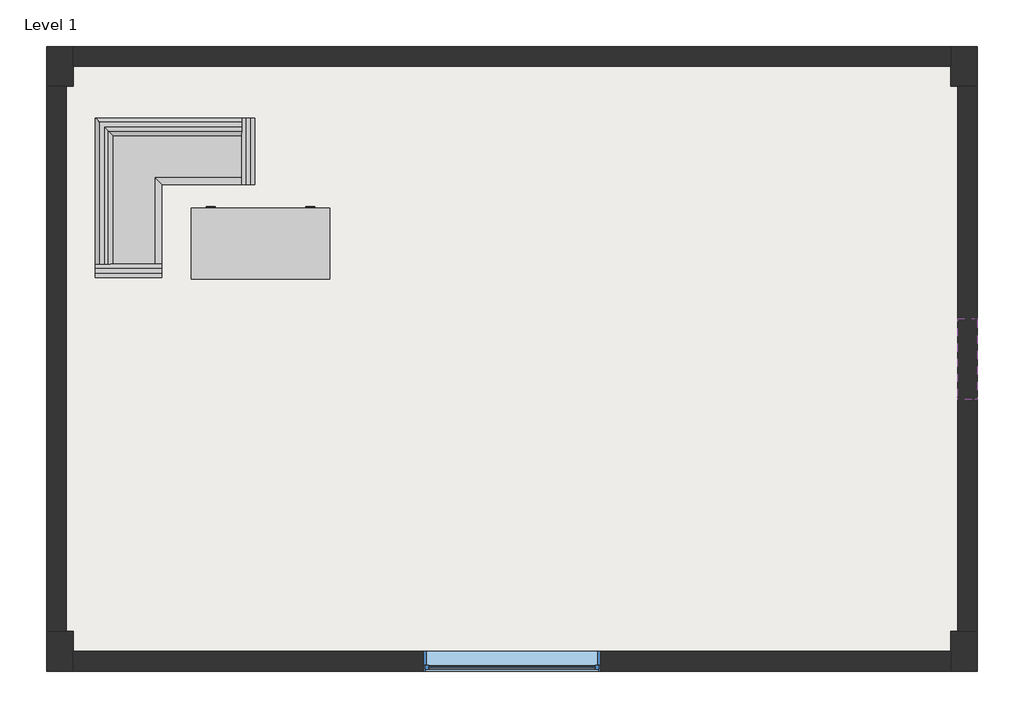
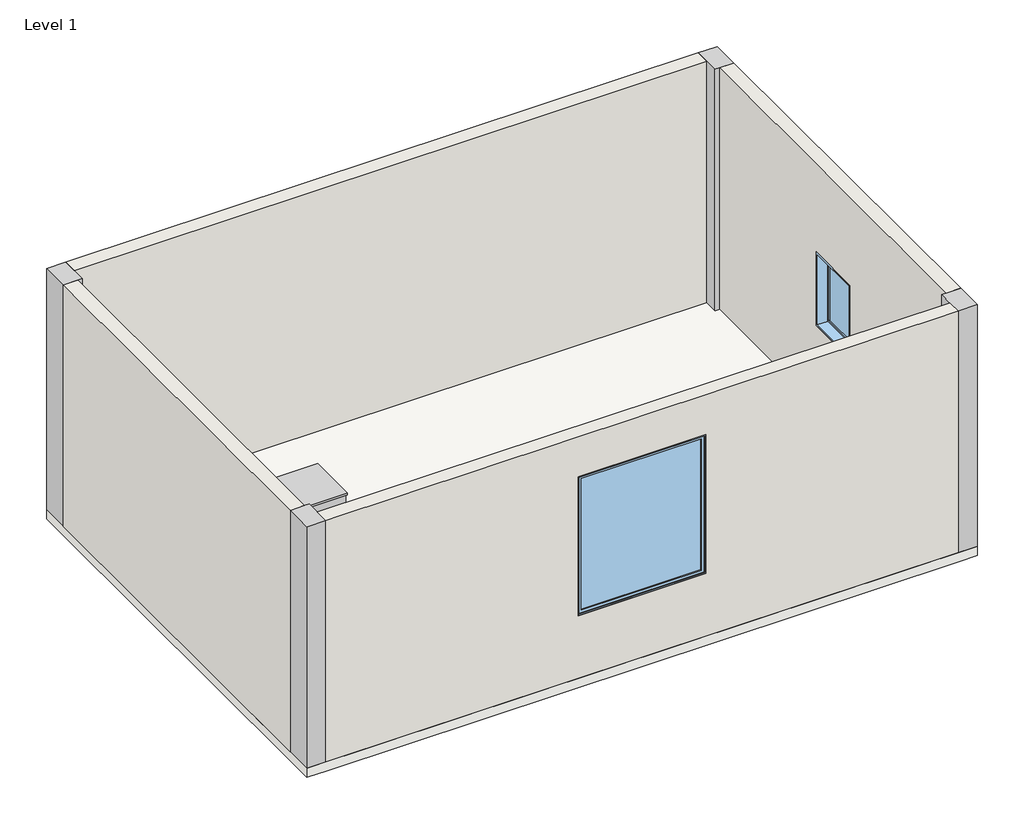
# One storey: 4 columns, 4 walls, 2 furniture elements, 2 windows, 1 slab.
"""IFC4 building model written with IfcOpenShell, lengths in millimetres."""

from ifc_helpers import new_model, si_unit, frame, origin, origin_with_axes, place, context, project, spatial, polyline, outline, extrude, faceted_brep, transform, mapped, element, save
from components import furniture_7f12372d, furniture_1525_x_762_mm_aed207d5, m_fixed_0915_x_1220mm_70723515, m_fixed_0915_x_1830mm_85273121

model = new_model("IFC4")

# Units and contexts
model_context = context("Model", 3, world=origin())
ifc_project = project(units=[si_unit("LENGTHUNIT", "METRE", prefix="MILLI")], contexts=[model_context])

# Site, building, storey
site = spatial("IfcSite", under=ifc_project)
building = spatial("IfcBuilding", under=site)
storey = spatial("IfcBuildingStorey", under=building, Name="Level 1", Elevation=0.0)

# Columns
placement = place(None, origin())
element("IfcColumn", 1, ObjectType="混凝土-矩形-柱 : 300 x 450 mm", at=placement, inside=storey, context=model_context, shape_type="Brep", body=[
    faceted_brep([(-10024.3047465, 1981.3483646, 0.0), (-10024.3047465, 1756.3483646, 0.0), (-10024.3047465, 1531.3483646, 0.0), (-10099.3047465, 1531.3483646, 0.0), (-10324.3047465, 1531.3483646, 0.0), (-10324.3047465, 1981.3483646, 0.0), (-10024.3047465, 1981.3483646, 4000.0), (-10024.3047465, 1756.3483646, 4000.0), (-10024.3047465, 1531.3483646, 4000.0), (-10099.3047465, 1531.3483646, 4000.0), (-10324.3047465, 1531.3483646, 4000.0), (-10324.3047465, 1981.3483646, 4000.0)], [[[0, 1, 2, 3, 4, 5]], [[6, 7, 8, 2, 1, 0]], [[8, 9, 10, 4, 3, 2]], [[10, 11, 5, 4]], [[11, 6, 0, 5]], [[6, 11, 10, 9, 8, 7]]]),
])
element("IfcColumn", 2, ObjectType="混凝土-矩形-柱 : 300 x 450 mm", at=placement, inside=storey, context=model_context, shape_type="Brep", body=[
    faceted_brep([(175.6952535, 1981.3483646, 0.0), (175.6952535, 1531.3483646, 0.0), (-49.3047465, 1531.3483646, 0.0), (-124.3047465, 1531.3483646, 0.0), (-124.3047465, 1756.3483646, 0.0), (-124.3047465, 1981.3483646, 0.0), (175.6952535, 1981.3483646, 4000.0), (175.6952535, 1531.3483646, 4000.0), (-49.3047465, 1531.3483646, 4000.0), (-124.3047465, 1531.3483646, 4000.0), (-124.3047465, 1756.3483646, 4000.0), (-124.3047465, 1981.3483646, 4000.0)], [[[0, 1, 2, 3, 4, 5]], [[6, 7, 1, 0]], [[7, 8, 9, 3, 2, 1]], [[9, 10, 11, 5, 4, 3]], [[11, 6, 0, 5]], [[6, 11, 10, 9, 8, 7]]]),
])
element("IfcColumn", 3, ObjectType="混凝土-矩形-柱 : 300 x 450 mm", at=placement, inside=storey, context=model_context, shape_type="Brep", body=[
    faceted_brep([(-10024.3047465, -4618.6516354, 0.0), (-10024.3047465, -4843.6516354, 0.0), (-10024.3047465, -5068.6516354, 0.0), (-10324.3047465, -5068.6516354, 0.0), (-10324.3047465, -4618.6516354, 0.0), (-10099.3047465, -4618.6516354, 0.0), (-10024.3047465, -4618.6516354, 4000.0), (-10024.3047465, -4843.6516354, 4000.0), (-10024.3047465, -5068.6516354, 4000.0), (-10324.3047465, -5068.6516354, 4000.0), (-10324.3047465, -4618.6516354, 4000.0), (-10099.3047465, -4618.6516354, 4000.0)], [[[0, 1, 2, 3, 4, 5]], [[6, 7, 8, 2, 1, 0]], [[8, 9, 3, 2]], [[9, 10, 4, 3]], [[10, 11, 6, 0, 5, 4]], [[6, 11, 10, 9, 8, 7]]]),
])
element("IfcColumn", 4, ObjectType="混凝土-矩形-柱 : 300 x 450 mm", at=placement, inside=storey, context=model_context, shape_type="Brep", body=[
    faceted_brep([(175.6952535, -4618.6516354, 0.0), (175.6952535, -5068.6516354, 0.0), (-124.3047465, -5068.6516354, 0.0), (-124.3047465, -4843.6516354, 0.0), (-124.3047465, -4618.6516354, 0.0), (-49.3047465, -4618.6516354, 0.0), (175.6952535, -4618.6516354, 4000.0), (175.6952535, -5068.6516354, 4000.0), (-124.3047465, -5068.6516354, 4000.0), (-124.3047465, -4843.6516354, 4000.0), (-124.3047465, -4618.6516354, 4000.0), (-49.3047465, -4618.6516354, 4000.0)], [[[0, 1, 2, 3, 4, 5]], [[6, 7, 1, 0]], [[7, 8, 2, 1]], [[8, 9, 10, 4, 3, 2]], [[10, 11, 6, 0, 5, 4]], [[6, 11, 10, 9, 8, 7]]]),
])

# Furniture
furniture_shape = furniture_7f12372d(model_context)
element("IfcFurniture", 5, ObjectType="L 型长沙发 : W1800*D1800", at=placement, inside=storey, context=model_context, shape_type="MappedRepresentation", body=[
    mapped(furniture_shape, transform((-8874.3047465, 275.3483646, 0.0), x_axis=(1.0000000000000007, 0.0, 0.0), y_axis=(0.0, 1.0000000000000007, 0.0), z_axis=(0.0, 0.0, 1.0))),
])
furniture_1525_x_762_mm_shape = furniture_1525_x_762_mm_aed207d5(model_context)
element("IfcFurniture", 6, ObjectType="办公桌带抽屉2 : 1525 x 762 mm", at=placement, inside=storey, context=model_context, shape_type="MappedRepresentation", body=[
    mapped(furniture_1525_x_762_mm_shape, transform((-8674.3047465, -624.6516354, 0.0), x_axis=(1.0, 0.0, 0.0), y_axis=(0.0, 1.0, 0.0), z_axis=(0.0, 0.0, 1.0))),
])

# Slab
element("IfcSlab", 7, ObjectType="Generic 150mm", at=placement, inside=storey, context=model_context, shape_type="Brep", body=[
    faceted_brep([(175.6952535, 1981.3483646, -150.0), (175.6952535, 1531.3483646, -150.0), (175.6952535, -4618.6516354, -150.0), (175.6952535, -5068.6516354, -150.0), (-124.3047465, -5068.6516354, -150.0), (-10024.3047465, -5068.6516354, -150.0), (-10324.3047465, -5068.6516354, -150.0), (-10324.3047465, -4618.6516354, -150.0), (-10324.3047465, 1531.3483646, -150.0), (-10324.3047465, 1981.3483646, -150.0), (-10024.3047465, 1981.3483646, -150.0), (-124.3047465, 1981.3483646, -150.0), (175.6952535, 1981.3483646, 0.0), (-10324.3047465, 1981.3483646, 0.0), (-10324.3047465, -5068.6516354, 0.0), (175.6952535, -5068.6516354, 0.0)], [[[0, 1, 2, 3, 4, 5, 6, 7, 8, 9, 10, 11]], [[12, 13, 14, 15]], [[3, 2, 1, 0, 12, 15]], [[6, 5, 4, 3, 15, 14]], [[9, 8, 7, 6, 14, 13]], [[0, 11, 10, 9, 13, 12]]]),
])

# Walls
element("IfcWall", 8, ObjectType="Generic - 225mm Masonry", at=placement, inside=storey, context=model_context, shape_type="SweptSolid", body=[
    extrude(outline(polyline([(-10324.3047465, 1531.3483646), (-10099.3047465, 1531.3483646), (-10099.3047465, -4618.6516354), (-10324.3047465, -4618.6516354), (-10324.3047465, 1531.3483646)])), origin_with_axes(), (0.0, 0.0, 1.0), 4000.0),
])
element("IfcWall", 9, ObjectType="Generic - 225mm Masonry", at=placement, inside=storey, context=model_context, shape_type="SweptSolid", body=[
    extrude(outline(polyline([(-124.3047465, 1981.3483646), (-124.3047465, 1756.3483646), (-10024.3047465, 1756.3483646), (-10024.3047465, 1981.3483646), (-124.3047465, 1981.3483646)])), origin_with_axes(), (0.0, 0.0, 1.0), 4000.0),
])
element("IfcWall", 10, ObjectType="Generic - 225mm Masonry", at=placement, inside=storey, context=model_context, shape_type="SweptSolid", body=[
    extrude(outline(polyline([(-4618.6516354, 0.0), (-4618.6516354, 4000.0), (1531.3483646, 4000.0), (1531.3483646, 0.0), (-4618.6516354, 0.0)]), holes=[polyline([(-1086.1516354, 1319.6038208), (-1086.1516354, 2539.6038208), (-2001.1516354, 2539.6038208), (-2001.1516354, 1319.6038208), (-1086.1516354, 1319.6038208)])]), frame((-49.3047465, 0.0, 0.0), z_axis=(1.0, 0.0, 0.0), x_axis=(0.0, 1.0, 0.0)), (0.0, 0.0, 1.0), 225.0),
])
element("IfcWall", 11, ObjectType="Generic - 225mm Masonry", at=placement, inside=storey, context=model_context, shape_type="SweptSolid", body=[
    extrude(outline(polyline([(4000.0, -10024.3047465), (0.0, -10024.3047465), (0.0, -124.3047465), (4000.0, -124.3047465), (4000.0, -10024.3047465)]), holes=[polyline([(3339.9927158, -4074.3047465), (1039.9927158, -4074.3047465), (1039.9927158, -6074.3047465), (3339.9927158, -6074.3047465), (3339.9927158, -4074.3047465)])]), frame((0.0, -5068.6516354, 0.0), z_axis=(0.0, 1.0, 0.0), x_axis=(0.0, 0.0, 1.0)), (0.0, 0.0, 1.0), 225.0),
])

# Windows
m_fixed_0915_x_1220mm_shape = m_fixed_0915_x_1220mm_70723515(model_context)
element("IfcWindow", 12, ObjectType="M_Fixed : 0915 x 1220mm", at=placement, inside=storey, context=model_context, shape_type="MappedRepresentation", body=[
    mapped(m_fixed_0915_x_1220mm_shape, transform((50.1952535, -1543.6516354, 404.6038208), x_axis=(0.0, -1.0, 0.0), y_axis=(1.0, 0.0, 0.0), z_axis=(0.0, 0.0, 1.0))),
])
m_fixed_0915_x_1830mm_shape = m_fixed_0915_x_1830mm_85273121(model_context)
element("IfcWindow", 13, ObjectType="M_Fixed : 0915 x 1830mm", at=placement, inside=storey, context=model_context, shape_type="MappedRepresentation", body=[
    mapped(m_fixed_0915_x_1830mm_shape, transform((-5074.3047465, -4943.1516354, 734.9927158), x_axis=(-1.0, 0.0, 0.0), y_axis=(0.0, -1.0, 0.0), z_axis=(0.0, 0.0, 1.0))),
])

save(model, "model.ifc")
